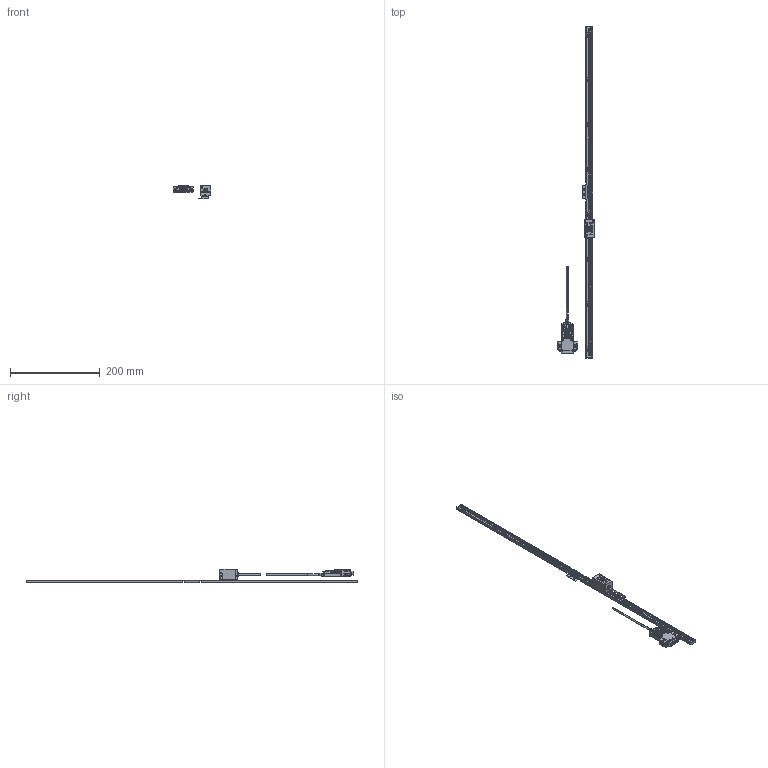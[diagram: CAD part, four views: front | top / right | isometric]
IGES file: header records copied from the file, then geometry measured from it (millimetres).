
Start section: Elysium IGES Interface
Global section: file name: 91HK:\20_商品設計\設計１課\個人\山室\05_作業中雑務\20220810_ST1300 3D HP掲載\ST1300-700F_G.igs; native system: Creo Elements/Direct Modeling 18.1I  13-Aug-2016; preprocessor: Creo Element/Direct IGES_3D V2.2; author: Unknown; organization: Unknown; date: 20220816.101206; units: millimetre
Bounding box: 83 x 740 x 30.1 mm (x, y, z)
Volume: 80231.2 mm3; surface area: 52189.6 mm2
Topology: 3 solids, 6 shells, 3422 faces, 9442 edges, 6166 vertices
Faces by surface type: bspline 3422
